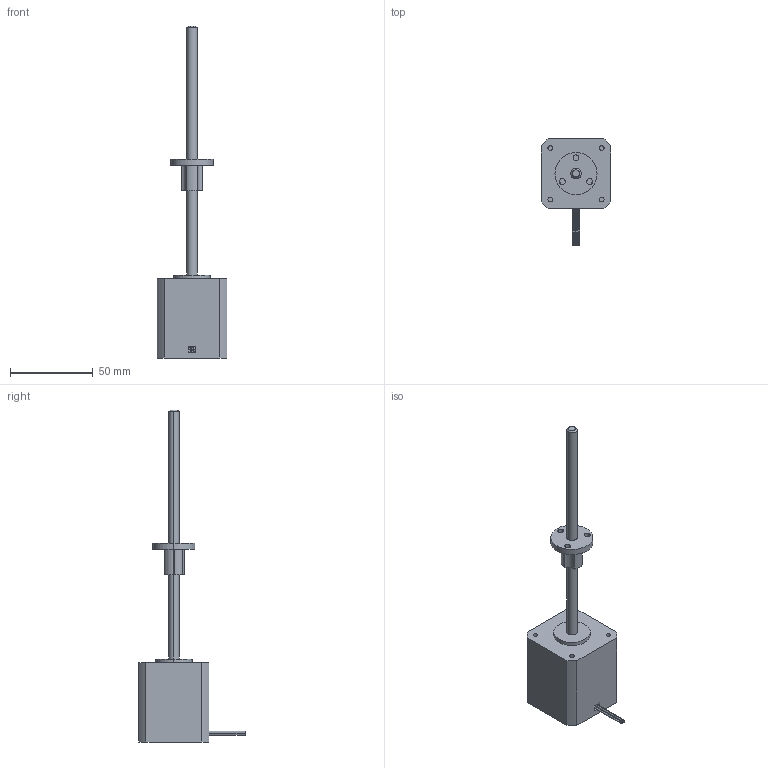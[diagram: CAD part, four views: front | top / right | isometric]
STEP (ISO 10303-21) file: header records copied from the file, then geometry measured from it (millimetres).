
FILE_DESCRIPTION (( 'STEP AP214' ), '1' );
FILE_NAME ('AMETEK-E43M4B-2.33-6-12-PTFE-M3.step.step', '2019-05-17T15:43:14', ( '' ), ( '' ), 'SwSTEP 2.0', 'SolidWorks 2019', '' );
FILE_SCHEMA (( 'AUTOMOTIVE_DESIGN' ));
Length unit declared in the file: inch
Products named in the file (3): AMETEK-E43M4B-2.33-6-12-PTFE-M3.step; AMETEK-E43M4B-2.33-6-12-PTFE-M3.step_43000 External Linear Nut; AMETEK-E43M4B-2.33-6-12-PTFE-M3.step_43000 Double Stack External Linear
Assembly tree (2 placements, depth 2):
  AMETEK-E43M4B-2.33-6-12-PTFE-M3.step
    AMETEK-E43M4B-2.33-6-12-PTFE-M3.step_43000 Double Stack External Linear
    AMETEK-E43M4B-2.33-6-12-PTFE-M3.step_43000 External Linear Nut
Bounding box: 42.2 x 64.03 x 200.15 mm (x, y, z)
Volume: 90311.4 mm3; surface area: 18094.3 mm2
Topology: 2 solids, 2 shells, 74 faces, 166 edges, 110 vertices
Faces by surface type: cylinder 46, plane 26, cone 2
Entity records: 2937 total; most frequent: DIRECTION 418, CARTESIAN_POINT 355, ORIENTED_EDGE 332, AXIS2_PLACEMENT_3D 173, EDGE_CURVE 166, VERTEX_POINT 110, EDGE_LOOP 96, CIRCLE 94
